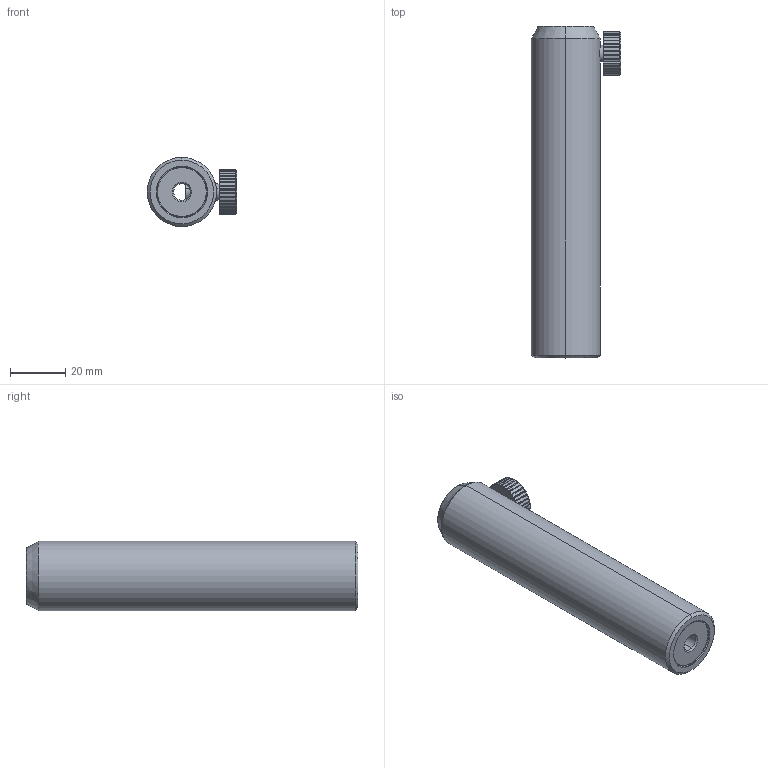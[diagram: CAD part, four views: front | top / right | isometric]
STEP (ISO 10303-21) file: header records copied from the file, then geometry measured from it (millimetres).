
FILE_DESCRIPTION (( 'STEP AP203' ), '1' );
FILE_NAME ('M-PH12-120.STEP', '2020-07-28T02:07:27', ( '' ), ( '' ), 'SwSTEP 2.0', 'SolidWorks 2019', '' );
FILE_SCHEMA (( 'CONFIG_CONTROL_DESIGN' ));
Length unit declared in the file: millimetre
Products named in the file (1): M-PH12-120
Bounding box: 32.33 x 120 x 25 mm (x, y, z)
Volume: 45256.9 mm3; surface area: 16502.5 mm2
Topology: 2 solids, 5 shells, 216 faces, 574 edges, 375 vertices
Faces by surface type: plane 112, cylinder 77, cone 16, sphere 5, torus 4, bspline 2
Entity records: 9113 total; most frequent: CARTESIAN_POINT 3729, ORIENTED_EDGE 1134, DIRECTION 1074, EDGE_CURVE 567, AXIS2_PLACEMENT_3D 396, VERTEX_POINT 371, VECTOR 282, LINE 282
